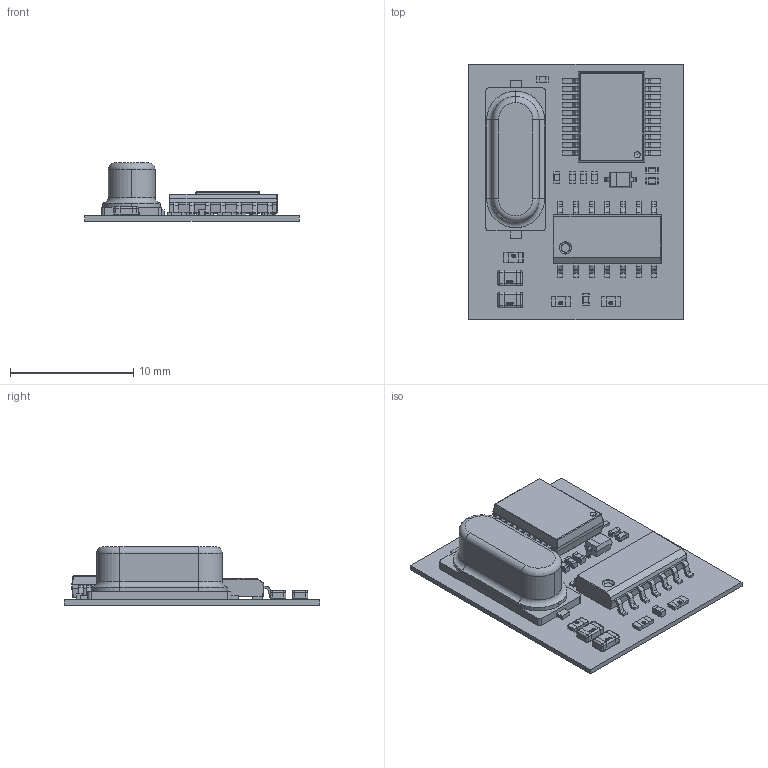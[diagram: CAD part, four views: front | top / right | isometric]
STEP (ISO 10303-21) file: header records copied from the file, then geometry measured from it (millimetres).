
FILE_DESCRIPTION(('Open CASCADE Model'),'2;1');
FILE_NAME('Open CASCADE Shape Model','2018-10-04T15:23:19',('Author'),( 'Open CASCADE'),'Open CASCADE STEP processor 6.8','Open CASCADE 6.8' ,'Unknown');
FILE_SCHEMA(('AUTOMOTIVE_DESIGN { 1 0 10303 214 1 1 1 1 }'));
Length unit declared in the file: millimetre
Products named in the file (30): PCB; Board; C1; cap_0402; C2; C3; C4; C5; C6; C7; User_Library-0805_SMD_Capacitor; C8; D1; SOD-323; R1; User_Library-Chip_Resistor2; R2; R4; User_Library-0603_SMD_Resistor; R5; U2; SOIC-14; User_Library-SOIC-14-150_pin_SOIC_SO-150_1; User_Library-SOIC-14-150_SOIC_150_SOIC_8.75X4_1; X1; User_Library-Crystal_HC49_US-SM(2); U1; SSOP-20; C9; User_Library-0603_SMD_Capacitor(1)
Assembly tree (50 placements, depth 4):
  PCB
    Board
    C1
      cap_0402
    C2
      cap_0402
    C3
      cap_0402
    C4
      cap_0402
    C5
      cap_0402
    C6
      cap_0402
    C7
      User_Library-0805_SMD_Capacitor
    C8
      User_Library-0805_SMD_Capacitor
    D1
      SOD-323
    R1
      User_Library-Chip_Resistor2
    R2
      User_Library-Chip_Resistor2
    R4
      User_Library-0603_SMD_Resistor
    R5
      User_Library-0603_SMD_Resistor
    U2
      SOIC-14
        User_Library-SOIC-14-150_pin_SOIC_SO-150_1  x14
        User_Library-SOIC-14-150_SOIC_150_SOIC_8.75X4_1
    X1
      User_Library-Crystal_HC49_US-SM(2)
    U1
      SSOP-20
    C9
      User_Library-0603_SMD_Capacitor(1)
Bounding box: 17.4 x 20.7 x 4.71 mm (x, y, z)
Volume: 452.1 mm3; surface area: 1335.2 mm2
Topology: 32 solids, 32 shells, 1453 faces, 3559 edges, 2119 vertices
Faces by surface type: plane 655, cylinder 474, bspline 189, sphere 129, torus 6
Entity records: 35740 total; most frequent: CARTESIAN_POINT 11042, ORIENTED_EDGE 4006, DIRECTION 3715, EDGE_CURVE 2003, LINE 1277, VECTOR 1277, VERTEX_POINT 1237, AXIS2_PLACEMENT_3D 1219
